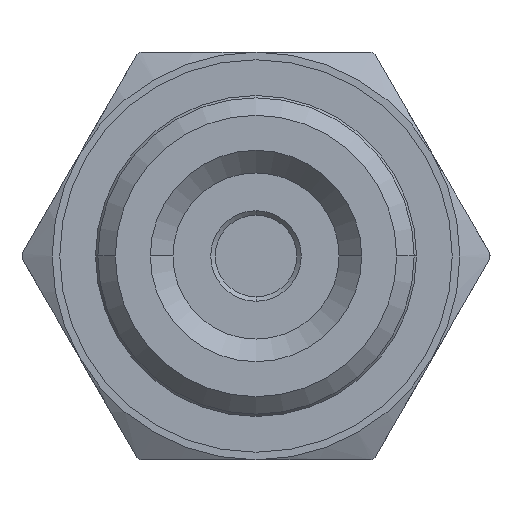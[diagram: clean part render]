
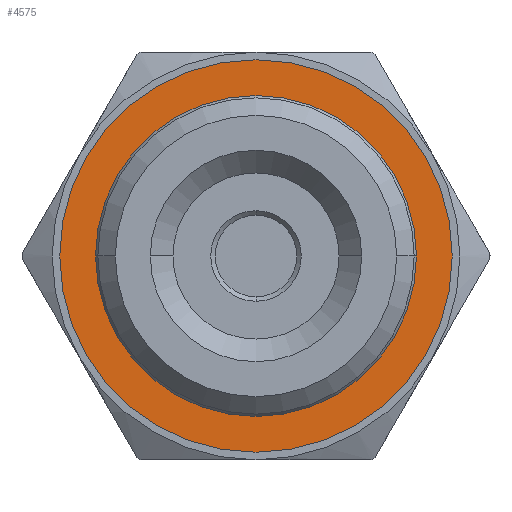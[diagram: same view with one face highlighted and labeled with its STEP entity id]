
A CAD part, front view. The second image highlights one B-rep face of the part: STEP entity #4575.
In plain terms, the highlighted planar face has unit normal (0, -1, 0).
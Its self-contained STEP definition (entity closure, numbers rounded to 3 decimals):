
#1998=CARTESIAN_POINT('',(0.,-11.3,0.));
#1999=DIRECTION('',(0.,1.,0.));
#2000=DIRECTION('',(-1.,0.,0.));
#2001=AXIS2_PLACEMENT_3D('',#1998,#1999,#2000);
#2003=CARTESIAN_POINT('',(0.,-11.3,0.));
#2004=DIRECTION('',(0.,1.,0.));
#2005=DIRECTION('',(1.,0.,0.));
#2006=AXIS2_PLACEMENT_3D('',#2003,#2004,#2005);
#2008=CARTESIAN_POINT('',(0.,-11.3,0.));
#2009=DIRECTION('',(0.,-1.,0.));
#2010=DIRECTION('',(-1.,0.,0.));
#2011=AXIS2_PLACEMENT_3D('',#2008,#2009,#2010);
#2013=CARTESIAN_POINT('',(0.,-11.3,0.));
#2014=DIRECTION('',(0.,-1.,0.));
#2015=DIRECTION('',(1.,0.,0.));
#2016=AXIS2_PLACEMENT_3D('',#2013,#2014,#2015);
#3204=CARTESIAN_POINT('',(13.,-11.3,0.));
#3205=VERTEX_POINT('',#3204);
#3206=CARTESIAN_POINT('',(-13.,-11.3,0.));
#3207=VERTEX_POINT('',#3206);
#3208=CARTESIAN_POINT('',(-10.63,-11.3,0.));
#3209=CARTESIAN_POINT('',(10.63,-11.3,0.));
#3210=VERTEX_POINT('',#3208);
#3211=VERTEX_POINT('',#3209);
#4560=CARTESIAN_POINT('',(-10.63,-11.3,0.));
#4561=DIRECTION('',(0.,-1.,0.));
#4562=DIRECTION('',(1.,0.,0.));
#4563=AXIS2_PLACEMENT_3D('',#4560,#4561,#4562);
#4564=PLANE('',#4563);
#4565=ORIENTED_EDGE('',*,*,#4540,.T.);
#4566=ORIENTED_EDGE('',*,*,#4553,.T.);
#4567=EDGE_LOOP('',(#4565,#4566));
#4568=FACE_OUTER_BOUND('',#4567,.F.);
#4570=ORIENTED_EDGE('',*,*,#4569,.T.);
#4572=ORIENTED_EDGE('',*,*,#4571,.T.);
#4573=EDGE_LOOP('',(#4570,#4572));
#4574=FACE_BOUND('',#4573,.F.);
#4575=ADVANCED_FACE('',(#4568,#4574),#4564,.T.);
#2002=CIRCLE('',#2001,13.);
#2007=CIRCLE('',#2006,13.);
#2012=CIRCLE('',#2011,10.63);
#2017=CIRCLE('',#2016,10.63);
#4540=EDGE_CURVE('',#3207,#3205,#2002,.T.);
#4553=EDGE_CURVE('',#3205,#3207,#2007,.T.);
#4569=EDGE_CURVE('',#3210,#3211,#2012,.T.);
#4571=EDGE_CURVE('',#3211,#3210,#2017,.T.);
